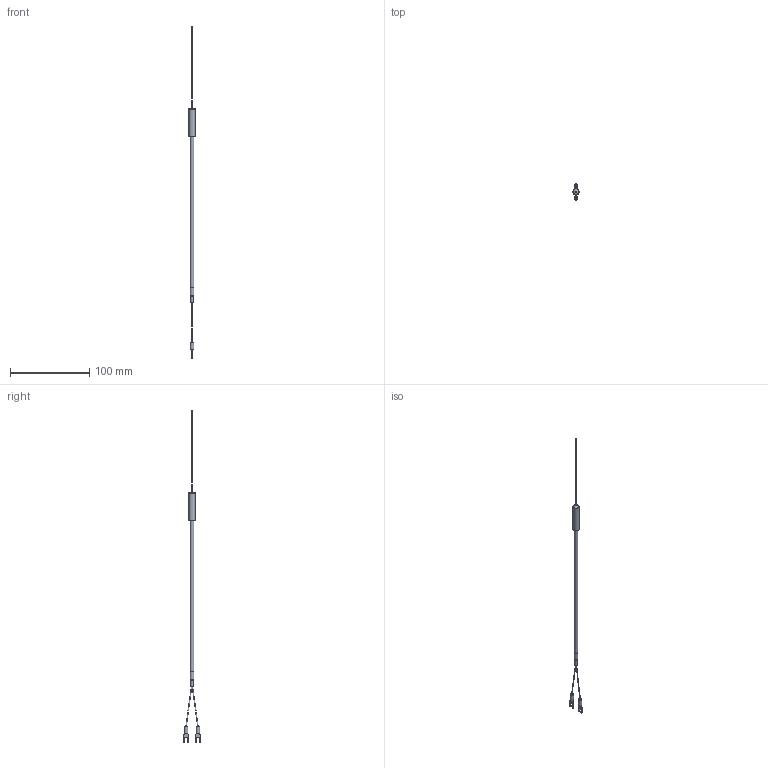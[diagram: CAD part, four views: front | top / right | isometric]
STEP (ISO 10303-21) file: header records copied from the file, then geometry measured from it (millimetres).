
FILE_DESCRIPTION (( 'STEP AP203' ), '1' );
FILE_NAME ('YIT101S-6(0).STEP', '2025-02-18T05:49:38', ( '' ), ( '' ), 'SwSTEP 2.0', 'SolidWorks 2021', '' );
FILE_SCHEMA (( 'CONFIG_CONTROL_DESIGN' ));
Length unit declared in the file: millimetre
Products named in the file (1): YIT101S-6(0)
Bounding box: 8 x 20.85 x 420 mm (x, y, z)
Volume: 5983.2 mm3; surface area: 5211.9 mm2
Topology: 1 solids, 1 shells, 67 faces, 164 edges, 106 vertices
Faces by surface type: plane 34, cylinder 21, bspline 8, cone 2, sphere 1, torus 1
Full cylindrical faces by diameter (mm): 1 x1, 3.16 x1, 4.5 x2, 4.8 x1, 5 x1, 8 x1
Entity records: 2092 total; most frequent: CARTESIAN_POINT 529, DIRECTION 300, ORIENTED_EDGE 290, EDGE_CURVE 145, AXIS2_PLACEMENT_3D 107, VERTEX_POINT 101, EDGE_LOOP 88, VECTOR 86
